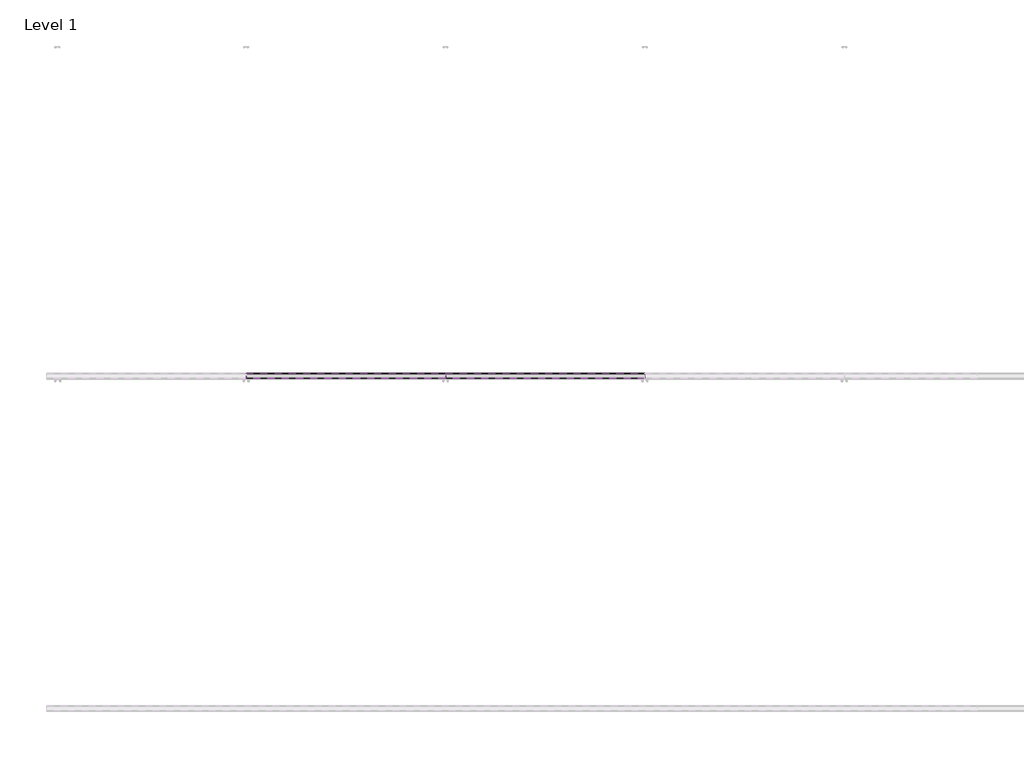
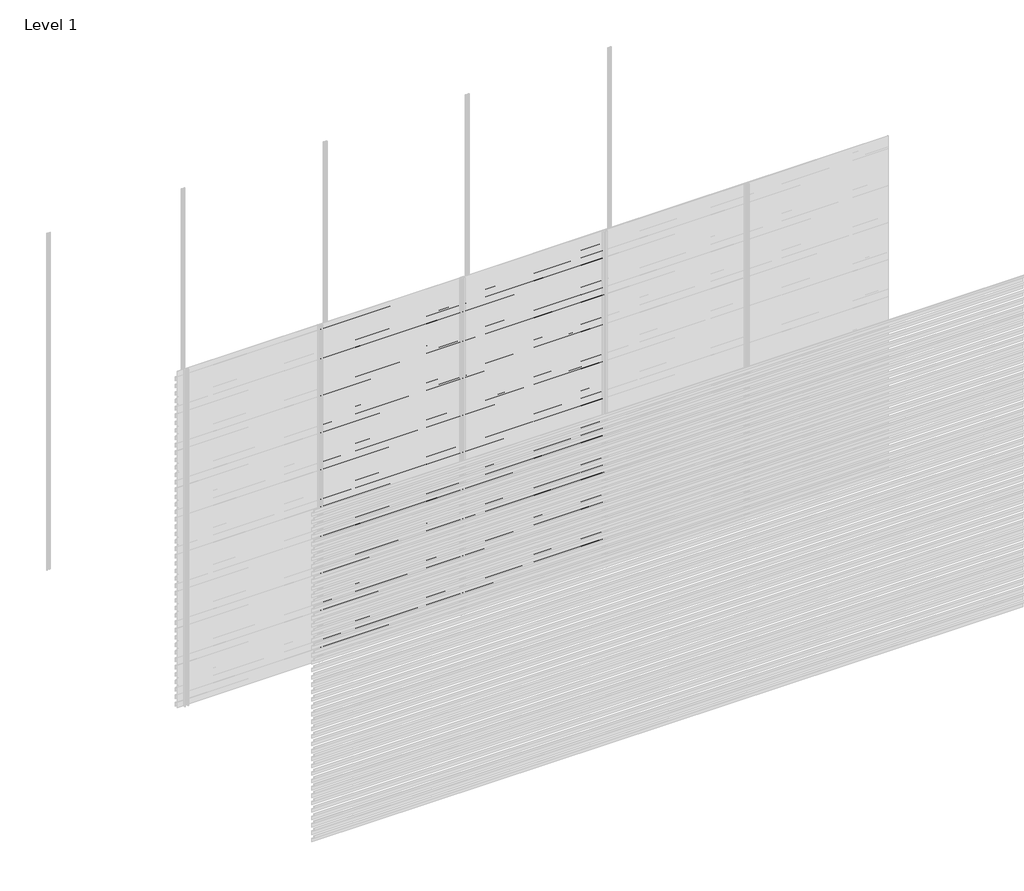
# One storey, part 29 of 33: 88 proxies.
"""IFC4 building model written with IfcOpenShell, lengths in millimetres."""

from ifc_helpers import new_model, si_unit, frame, origin, place, context, project, spatial, polyline, outline, extrude, element, save

model = new_model("IFC4")

# Units and contexts
model_context = context("Model", 3, world=origin())
ifc_project = project(units=[si_unit("LENGTHUNIT", "METRE", prefix="MILLI")], contexts=[model_context])

# Site, building, storey
site = spatial("IfcSite", under=ifc_project)
building = spatial("IfcBuilding", under=site)
storey = spatial("IfcBuildingStorey", under=building, Name="Level 1", Elevation=0.0)

# Proxies
placement = place(None, origin())
element("IfcBuildingElementProxy", 1, Name="Wall Sweeps", at=placement, inside=storey, context=model_context, shape_type="SweptSolid", body=[
    extrude(outline(polyline([(-5967.0, 2930.0), (-5967.0, 2897.0), (-5968.25, 2897.7216933), (-5968.25, 2929.2872415), (-5998.0, 2950.0588647), (-5998.0, 2970.0), (-5996.75, 2970.0), (-5996.75, 2950.7716232), (-5967.0, 2930.0)])), frame((1200.0, 0.0, 0.0), z_axis=(1.0, 0.0, 0.0), x_axis=(0.0, 1.0, 0.0)), (0.0, 0.0, 1.0), 1200.0),
])
element("IfcBuildingElementProxy", 2, Name="Wall Sweeps", at=placement, inside=storey, context=model_context, shape_type="SweptSolid", body=[
    extrude(outline(polyline([(-5967.0, 2864.0), (-5967.0, 2831.0), (-5968.25, 2831.7216933), (-5968.25, 2863.2872415), (-5998.0, 2884.0588647), (-5998.0, 2904.0), (-5996.75, 2904.0), (-5996.75, 2884.7716232), (-5967.0, 2864.0)])), frame((1200.0, 0.0, 0.0), z_axis=(1.0, 0.0, 0.0), x_axis=(0.0, 1.0, 0.0)), (0.0, 0.0, 1.0), 1200.0),
])
element("IfcBuildingElementProxy", 3, Name="Wall Sweeps", at=placement, inside=storey, context=model_context, shape_type="SweptSolid", body=[
    extrude(outline(polyline([(-5967.0, 2798.0), (-5967.0, 2765.0), (-5968.25, 2765.7216933), (-5968.25, 2797.2872415), (-5998.0, 2818.0588647), (-5998.0, 2838.0), (-5996.75, 2838.0), (-5996.75, 2818.7716232), (-5967.0, 2798.0)])), frame((1200.0, 0.0, 0.0), z_axis=(1.0, 0.0, 0.0), x_axis=(0.0, 1.0, 0.0)), (0.0, 0.0, 1.0), 1200.0),
])
element("IfcBuildingElementProxy", 4, Name="Wall Sweeps", at=placement, inside=storey, context=model_context, shape_type="SweptSolid", body=[
    extrude(outline(polyline([(-5967.0, 2732.0), (-5967.0, 2699.0), (-5968.25, 2699.7216933), (-5968.25, 2731.2872415), (-5998.0, 2752.0588647), (-5998.0, 2772.0), (-5996.75, 2772.0), (-5996.75, 2752.7716232), (-5967.0, 2732.0)])), frame((1200.0, 0.0, 0.0), z_axis=(1.0, 0.0, 0.0), x_axis=(0.0, 1.0, 0.0)), (0.0, 0.0, 1.0), 1200.0),
])
element("IfcBuildingElementProxy", 5, Name="Wall Sweeps", at=placement, inside=storey, context=model_context, shape_type="SweptSolid", body=[
    extrude(outline(polyline([(-5967.0, 2666.0), (-5967.0, 2633.0), (-5968.25, 2633.7216933), (-5968.25, 2665.2872415), (-5998.0, 2686.0588647), (-5998.0, 2706.0), (-5996.75, 2706.0), (-5996.75, 2686.7716232), (-5967.0, 2666.0)])), frame((1200.0, 0.0, 0.0), z_axis=(1.0, 0.0, 0.0), x_axis=(0.0, 1.0, 0.0)), (0.0, 0.0, 1.0), 1200.0),
])
element("IfcBuildingElementProxy", 6, Name="Wall Sweeps", at=placement, inside=storey, context=model_context, shape_type="SweptSolid", body=[
    extrude(outline(polyline([(-5967.0, 2600.0), (-5967.0, 2567.0), (-5968.25, 2567.7216933), (-5968.25, 2599.2872415), (-5998.0, 2620.0588647), (-5998.0, 2640.0), (-5996.75, 2640.0), (-5996.75, 2620.7716232), (-5967.0, 2600.0)])), frame((1200.0, 0.0, 0.0), z_axis=(1.0, 0.0, 0.0), x_axis=(0.0, 1.0, 0.0)), (0.0, 0.0, 1.0), 1200.0),
])
element("IfcBuildingElementProxy", 7, Name="Wall Sweeps", at=placement, inside=storey, context=model_context, shape_type="SweptSolid", body=[
    extrude(outline(polyline([(-5967.0, 2534.0), (-5967.0, 2501.0), (-5968.25, 2501.7216933), (-5968.25, 2533.2872415), (-5998.0, 2554.0588647), (-5998.0, 2574.0), (-5996.75, 2574.0), (-5996.75, 2554.7716232), (-5967.0, 2534.0)])), frame((1200.0, 0.0, 0.0), z_axis=(1.0, 0.0, 0.0), x_axis=(0.0, 1.0, 0.0)), (0.0, 0.0, 1.0), 1200.0),
])
element("IfcBuildingElementProxy", 8, Name="Wall Sweeps", at=placement, inside=storey, context=model_context, shape_type="SweptSolid", body=[
    extrude(outline(polyline([(-5967.0, 2468.0), (-5967.0, 2435.0), (-5968.25, 2435.7216933), (-5968.25, 2467.2872415), (-5998.0, 2488.0588647), (-5998.0, 2508.0), (-5996.75, 2508.0), (-5996.75, 2488.7716232), (-5967.0, 2468.0)])), frame((1200.0, 0.0, 0.0), z_axis=(1.0, 0.0, 0.0), x_axis=(0.0, 1.0, 0.0)), (0.0, 0.0, 1.0), 1200.0),
])
element("IfcBuildingElementProxy", 9, Name="Wall Sweeps", at=placement, inside=storey, context=model_context, shape_type="SweptSolid", body=[
    extrude(outline(polyline([(-5967.0, 2402.0), (-5967.0, 2369.0), (-5968.25, 2369.7216933), (-5968.25, 2401.2872415), (-5998.0, 2422.0588647), (-5998.0, 2442.0), (-5996.75, 2442.0), (-5996.75, 2422.7716232), (-5967.0, 2402.0)])), frame((1200.0, 0.0, 0.0), z_axis=(1.0, 0.0, 0.0), x_axis=(0.0, 1.0, 0.0)), (0.0, 0.0, 1.0), 1200.0),
])
element("IfcBuildingElementProxy", 10, Name="Wall Sweeps", at=placement, inside=storey, context=model_context, shape_type="SweptSolid", body=[
    extrude(outline(polyline([(-5967.0, 2336.0), (-5967.0, 2303.0), (-5968.25, 2303.7216933), (-5968.25, 2335.2872415), (-5998.0, 2356.0588647), (-5998.0, 2376.0), (-5996.75, 2376.0), (-5996.75, 2356.7716232), (-5967.0, 2336.0)])), frame((1200.0, 0.0, 0.0), z_axis=(1.0, 0.0, 0.0), x_axis=(0.0, 1.0, 0.0)), (0.0, 0.0, 1.0), 1200.0),
])
element("IfcBuildingElementProxy", 11, Name="Wall Sweeps", at=placement, inside=storey, context=model_context, shape_type="SweptSolid", body=[
    extrude(outline(polyline([(-5967.0, 2270.0), (-5967.0, 2237.0), (-5968.25, 2237.7216933), (-5968.25, 2269.2872415), (-5998.0, 2290.0588647), (-5998.0, 2310.0), (-5996.75, 2310.0), (-5996.75, 2290.7716232), (-5967.0, 2270.0)])), frame((1200.0, 0.0, 0.0), z_axis=(1.0, 0.0, 0.0), x_axis=(0.0, 1.0, 0.0)), (0.0, 0.0, 1.0), 1200.0),
])
element("IfcBuildingElementProxy", 12, Name="Wall Sweeps", at=placement, inside=storey, context=model_context, shape_type="SweptSolid", body=[
    extrude(outline(polyline([(-5967.0, 2204.0), (-5967.0, 2171.0), (-5968.25, 2171.7216933), (-5968.25, 2203.2872415), (-5998.0, 2224.0588647), (-5998.0, 2244.0), (-5996.75, 2244.0), (-5996.75, 2224.7716232), (-5967.0, 2204.0)])), frame((1200.0, 0.0, 0.0), z_axis=(1.0, 0.0, 0.0), x_axis=(0.0, 1.0, 0.0)), (0.0, 0.0, 1.0), 1200.0),
])
element("IfcBuildingElementProxy", 13, Name="Wall Sweeps", at=placement, inside=storey, context=model_context, shape_type="SweptSolid", body=[
    extrude(outline(polyline([(-5967.0, 2138.0), (-5967.0, 2105.0), (-5968.25, 2105.7216933), (-5968.25, 2137.2872415), (-5998.0, 2158.0588647), (-5998.0, 2178.0), (-5996.75, 2178.0), (-5996.75, 2158.7716232), (-5967.0, 2138.0)])), frame((1200.0, 0.0, 0.0), z_axis=(1.0, 0.0, 0.0), x_axis=(0.0, 1.0, 0.0)), (0.0, 0.0, 1.0), 1200.0),
])
element("IfcBuildingElementProxy", 14, Name="Wall Sweeps", at=placement, inside=storey, context=model_context, shape_type="SweptSolid", body=[
    extrude(outline(polyline([(-5967.0, 2072.0), (-5967.0, 2039.0), (-5968.25, 2039.7216933), (-5968.25, 2071.2872415), (-5998.0, 2092.0588647), (-5998.0, 2112.0), (-5996.75, 2112.0), (-5996.75, 2092.7716232), (-5967.0, 2072.0)])), frame((1200.0, 0.0, 0.0), z_axis=(1.0, 0.0, 0.0), x_axis=(0.0, 1.0, 0.0)), (0.0, 0.0, 1.0), 1200.0),
])
element("IfcBuildingElementProxy", 15, Name="Wall Sweeps", at=placement, inside=storey, context=model_context, shape_type="SweptSolid", body=[
    extrude(outline(polyline([(-5967.0, 2006.0), (-5967.0, 1973.0), (-5968.25, 1973.7216933), (-5968.25, 2005.2872415), (-5998.0, 2026.0588647), (-5998.0, 2046.0), (-5996.75, 2046.0), (-5996.75, 2026.7716232), (-5967.0, 2006.0)])), frame((1200.0, 0.0, 0.0), z_axis=(1.0, 0.0, 0.0), x_axis=(0.0, 1.0, 0.0)), (0.0, 0.0, 1.0), 1200.0),
])
element("IfcBuildingElementProxy", 16, Name="Wall Sweeps", at=placement, inside=storey, context=model_context, shape_type="SweptSolid", body=[
    extrude(outline(polyline([(-5967.0, 1940.0), (-5967.0, 1907.0), (-5968.25, 1907.7216933), (-5968.25, 1939.2872415), (-5998.0, 1960.0588647), (-5998.0, 1980.0), (-5996.75, 1980.0), (-5996.75, 1960.7716232), (-5967.0, 1940.0)])), frame((1200.0, 0.0, 0.0), z_axis=(1.0, 0.0, 0.0), x_axis=(0.0, 1.0, 0.0)), (0.0, 0.0, 1.0), 1200.0),
])
element("IfcBuildingElementProxy", 17, Name="Wall Sweeps", at=placement, inside=storey, context=model_context, shape_type="SweptSolid", body=[
    extrude(outline(polyline([(-5967.0, 1874.0), (-5967.0, 1841.0), (-5968.25, 1841.7216933), (-5968.25, 1873.2872415), (-5998.0, 1894.0588647), (-5998.0, 1914.0), (-5996.75, 1914.0), (-5996.75, 1894.7716232), (-5967.0, 1874.0)])), frame((1200.0, 0.0, 0.0), z_axis=(1.0, 0.0, 0.0), x_axis=(0.0, 1.0, 0.0)), (0.0, 0.0, 1.0), 1200.0),
])
element("IfcBuildingElementProxy", 18, Name="Wall Sweeps", at=placement, inside=storey, context=model_context, shape_type="SweptSolid", body=[
    extrude(outline(polyline([(-5967.0, 1808.0), (-5967.0, 1775.0), (-5968.25, 1775.7216933), (-5968.25, 1807.2872415), (-5998.0, 1828.0588647), (-5998.0, 1848.0), (-5996.75, 1848.0), (-5996.75, 1828.7716232), (-5967.0, 1808.0)])), frame((1200.0, 0.0, 0.0), z_axis=(1.0, 0.0, 0.0), x_axis=(0.0, 1.0, 0.0)), (0.0, 0.0, 1.0), 1200.0),
])
element("IfcBuildingElementProxy", 19, Name="Wall Sweeps", at=placement, inside=storey, context=model_context, shape_type="SweptSolid", body=[
    extrude(outline(polyline([(-5967.0, 1742.0), (-5967.0, 1709.0), (-5968.25, 1709.7216933), (-5968.25, 1741.2872415), (-5998.0, 1762.0588647), (-5998.0, 1782.0), (-5996.75, 1782.0), (-5996.75, 1762.7716232), (-5967.0, 1742.0)])), frame((1200.0, 0.0, 0.0), z_axis=(1.0, 0.0, 0.0), x_axis=(0.0, 1.0, 0.0)), (0.0, 0.0, 1.0), 1200.0),
])
element("IfcBuildingElementProxy", 20, Name="Wall Sweeps", at=placement, inside=storey, context=model_context, shape_type="SweptSolid", body=[
    extrude(outline(polyline([(-5967.0, 1676.0), (-5967.0, 1643.0), (-5968.25, 1643.7216933), (-5968.25, 1675.2872415), (-5998.0, 1696.0588647), (-5998.0, 1716.0), (-5996.75, 1716.0), (-5996.75, 1696.7716232), (-5967.0, 1676.0)])), frame((1200.0, 0.0, 0.0), z_axis=(1.0, 0.0, 0.0), x_axis=(0.0, 1.0, 0.0)), (0.0, 0.0, 1.0), 1200.0),
])
element("IfcBuildingElementProxy", 21, Name="Wall Sweeps", at=placement, inside=storey, context=model_context, shape_type="SweptSolid", body=[
    extrude(outline(polyline([(-5967.0, 1610.0), (-5967.0, 1577.0), (-5968.25, 1577.7216933), (-5968.25, 1609.2872415), (-5998.0, 1630.0588647), (-5998.0, 1650.0), (-5996.75, 1650.0), (-5996.75, 1630.7716232), (-5967.0, 1610.0)])), frame((1200.0, 0.0, 0.0), z_axis=(1.0, 0.0, 0.0), x_axis=(0.0, 1.0, 0.0)), (0.0, 0.0, 1.0), 1200.0),
])
element("IfcBuildingElementProxy", 22, Name="Wall Sweeps", at=placement, inside=storey, context=model_context, shape_type="SweptSolid", body=[
    extrude(outline(polyline([(-5967.0, 1544.0), (-5967.0, 1511.0), (-5968.25, 1511.7216933), (-5968.25, 1543.2872415), (-5998.0, 1564.0588647), (-5998.0, 1584.0), (-5996.75, 1584.0), (-5996.75, 1564.7716232), (-5967.0, 1544.0)])), frame((1200.0, 0.0, 0.0), z_axis=(1.0, 0.0, 0.0), x_axis=(0.0, 1.0, 0.0)), (0.0, 0.0, 1.0), 1200.0),
])
element("IfcBuildingElementProxy", 23, Name="Wall Sweeps", at=placement, inside=storey, context=model_context, shape_type="SweptSolid", body=[
    extrude(outline(polyline([(-5967.0, 1478.0), (-5967.0, 1445.0), (-5968.25, 1445.7216933), (-5968.25, 1477.2872415), (-5998.0, 1498.0588647), (-5998.0, 1518.0), (-5996.75, 1518.0), (-5996.75, 1498.7716232), (-5967.0, 1478.0)])), frame((1200.0, 0.0, 0.0), z_axis=(1.0, 0.0, 0.0), x_axis=(0.0, 1.0, 0.0)), (0.0, 0.0, 1.0), 1200.0),
])
element("IfcBuildingElementProxy", 24, Name="Wall Sweeps", at=placement, inside=storey, context=model_context, shape_type="SweptSolid", body=[
    extrude(outline(polyline([(-5967.0, 1412.0), (-5967.0, 1379.0), (-5968.25, 1379.7216933), (-5968.25, 1411.2872415), (-5998.0, 1432.0588647), (-5998.0, 1452.0), (-5996.75, 1452.0), (-5996.75, 1432.7716232), (-5967.0, 1412.0)])), frame((1200.0, 0.0, 0.0), z_axis=(1.0, 0.0, 0.0), x_axis=(0.0, 1.0, 0.0)), (0.0, 0.0, 1.0), 1200.0),
])
element("IfcBuildingElementProxy", 25, Name="Wall Sweeps", at=placement, inside=storey, context=model_context, shape_type="SweptSolid", body=[
    extrude(outline(polyline([(-5967.0, 1346.0), (-5967.0, 1313.0), (-5968.25, 1313.7216933), (-5968.25, 1345.2872415), (-5998.0, 1366.0588647), (-5998.0, 1386.0), (-5996.75, 1386.0), (-5996.75, 1366.7716232), (-5967.0, 1346.0)])), frame((1200.0, 0.0, 0.0), z_axis=(1.0, 0.0, 0.0), x_axis=(0.0, 1.0, 0.0)), (0.0, 0.0, 1.0), 1200.0),
])
element("IfcBuildingElementProxy", 26, Name="Wall Sweeps", at=placement, inside=storey, context=model_context, shape_type="SweptSolid", body=[
    extrude(outline(polyline([(-5967.0, 1280.0), (-5967.0, 1247.0), (-5968.25, 1247.7216933), (-5968.25, 1279.2872415), (-5998.0, 1300.0588647), (-5998.0, 1320.0), (-5996.75, 1320.0), (-5996.75, 1300.7716232), (-5967.0, 1280.0)])), frame((1200.0, 0.0, 0.0), z_axis=(1.0, 0.0, 0.0), x_axis=(0.0, 1.0, 0.0)), (0.0, 0.0, 1.0), 1200.0),
])
element("IfcBuildingElementProxy", 27, Name="Wall Sweeps", at=placement, inside=storey, context=model_context, shape_type="SweptSolid", body=[
    extrude(outline(polyline([(-5967.0, 1214.0), (-5967.0, 1181.0), (-5968.25, 1181.7216933), (-5968.25, 1213.2872415), (-5998.0, 1234.0588647), (-5998.0, 1254.0), (-5996.75, 1254.0), (-5996.75, 1234.7716232), (-5967.0, 1214.0)])), frame((1200.0, 0.0, 0.0), z_axis=(1.0, 0.0, 0.0), x_axis=(0.0, 1.0, 0.0)), (0.0, 0.0, 1.0), 1200.0),
])
element("IfcBuildingElementProxy", 28, Name="Wall Sweeps", at=placement, inside=storey, context=model_context, shape_type="SweptSolid", body=[
    extrude(outline(polyline([(-5967.0, 1148.0), (-5967.0, 1115.0), (-5968.25, 1115.7216933), (-5968.25, 1147.2872415), (-5998.0, 1168.0588647), (-5998.0, 1188.0), (-5996.75, 1188.0), (-5996.75, 1168.7716232), (-5967.0, 1148.0)])), frame((1200.0, 0.0, 0.0), z_axis=(1.0, 0.0, 0.0), x_axis=(0.0, 1.0, 0.0)), (0.0, 0.0, 1.0), 1200.0),
])
element("IfcBuildingElementProxy", 29, Name="Wall Sweeps", at=placement, inside=storey, context=model_context, shape_type="SweptSolid", body=[
    extrude(outline(polyline([(-5967.0, 1082.0), (-5967.0, 1049.0), (-5968.25, 1049.7216933), (-5968.25, 1081.2872415), (-5998.0, 1102.0588647), (-5998.0, 1122.0), (-5996.75, 1122.0), (-5996.75, 1102.7716232), (-5967.0, 1082.0)])), frame((1200.0, 0.0, 0.0), z_axis=(1.0, 0.0, 0.0), x_axis=(0.0, 1.0, 0.0)), (0.0, 0.0, 1.0), 1200.0),
])
element("IfcBuildingElementProxy", 30, Name="Wall Sweeps", at=placement, inside=storey, context=model_context, shape_type="SweptSolid", body=[
    extrude(outline(polyline([(-5967.0, 1016.0), (-5967.0, 983.0), (-5968.25, 983.7216933), (-5968.25, 1015.2872415), (-5998.0, 1036.0588647), (-5998.0, 1056.0), (-5996.75, 1056.0), (-5996.75, 1036.7716232), (-5967.0, 1016.0)])), frame((1200.0, 0.0, 0.0), z_axis=(1.0, 0.0, 0.0), x_axis=(0.0, 1.0, 0.0)), (0.0, 0.0, 1.0), 1200.0),
])
element("IfcBuildingElementProxy", 31, Name="Wall Sweeps", at=placement, inside=storey, context=model_context, shape_type="SweptSolid", body=[
    extrude(outline(polyline([(-5967.0, 950.0), (-5967.0, 917.0), (-5968.25, 917.7216933), (-5968.25, 949.2872415), (-5998.0, 970.0588647), (-5998.0, 990.0), (-5996.75, 990.0), (-5996.75, 970.7716232), (-5967.0, 950.0)])), frame((1200.0, 0.0, 0.0), z_axis=(1.0, 0.0, 0.0), x_axis=(0.0, 1.0, 0.0)), (0.0, 0.0, 1.0), 1200.0),
])
element("IfcBuildingElementProxy", 32, Name="Wall Sweeps", at=placement, inside=storey, context=model_context, shape_type="SweptSolid", body=[
    extrude(outline(polyline([(-5967.0, 884.0), (-5967.0, 851.0), (-5968.25, 851.7216933), (-5968.25, 883.2872415), (-5998.0, 904.0588647), (-5998.0, 924.0), (-5996.75, 924.0), (-5996.75, 904.7716232), (-5967.0, 884.0)])), frame((1200.0, 0.0, 0.0), z_axis=(1.0, 0.0, 0.0), x_axis=(0.0, 1.0, 0.0)), (0.0, 0.0, 1.0), 1200.0),
])
element("IfcBuildingElementProxy", 33, Name="Wall Sweeps", at=placement, inside=storey, context=model_context, shape_type="SweptSolid", body=[
    extrude(outline(polyline([(-5967.0, 818.0), (-5967.0, 785.0), (-5968.25, 785.7216933), (-5968.25, 817.2872415), (-5998.0, 838.0588647), (-5998.0, 858.0), (-5996.75, 858.0), (-5996.75, 838.7716232), (-5967.0, 818.0)])), frame((1200.0, 0.0, 0.0), z_axis=(1.0, 0.0, 0.0), x_axis=(0.0, 1.0, 0.0)), (0.0, 0.0, 1.0), 1200.0),
])
element("IfcBuildingElementProxy", 34, Name="Wall Sweeps", at=placement, inside=storey, context=model_context, shape_type="SweptSolid", body=[
    extrude(outline(polyline([(-5967.0, 752.0), (-5967.0, 719.0), (-5968.25, 719.7216933), (-5968.25, 751.2872415), (-5998.0, 772.0588647), (-5998.0, 792.0), (-5996.75, 792.0), (-5996.75, 772.7716232), (-5967.0, 752.0)])), frame((1200.0, 0.0, 0.0), z_axis=(1.0, 0.0, 0.0), x_axis=(0.0, 1.0, 0.0)), (0.0, 0.0, 1.0), 1200.0),
])
element("IfcBuildingElementProxy", 35, Name="Wall Sweeps", at=placement, inside=storey, context=model_context, shape_type="SweptSolid", body=[
    extrude(outline(polyline([(-5967.0, 686.0), (-5967.0, 653.0), (-5968.25, 653.7216933), (-5968.25, 685.2872415), (-5998.0, 706.0588647), (-5998.0, 726.0), (-5996.75, 726.0), (-5996.75, 706.7716232), (-5967.0, 686.0)])), frame((1200.0, 0.0, 0.0), z_axis=(1.0, 0.0, 0.0), x_axis=(0.0, 1.0, 0.0)), (0.0, 0.0, 1.0), 1200.0),
])
element("IfcBuildingElementProxy", 36, Name="Wall Sweeps", at=placement, inside=storey, context=model_context, shape_type="SweptSolid", body=[
    extrude(outline(polyline([(-5967.0, 620.0), (-5967.0, 587.0), (-5968.25, 587.7216933), (-5968.25, 619.2872415), (-5998.0, 640.0588647), (-5998.0, 660.0), (-5996.75, 660.0), (-5996.75, 640.7716232), (-5967.0, 620.0)])), frame((1200.0, 0.0, 0.0), z_axis=(1.0, 0.0, 0.0), x_axis=(0.0, 1.0, 0.0)), (0.0, 0.0, 1.0), 1200.0),
])
element("IfcBuildingElementProxy", 37, Name="Wall Sweeps", at=placement, inside=storey, context=model_context, shape_type="SweptSolid", body=[
    extrude(outline(polyline([(-5967.0, 554.0), (-5967.0, 521.0), (-5968.25, 521.7216933), (-5968.25, 553.2872415), (-5998.0, 574.0588647), (-5998.0, 594.0), (-5996.75, 594.0), (-5996.75, 574.7716232), (-5967.0, 554.0)])), frame((1200.0, 0.0, 0.0), z_axis=(1.0, 0.0, 0.0), x_axis=(0.0, 1.0, 0.0)), (0.0, 0.0, 1.0), 1200.0),
])
element("IfcBuildingElementProxy", 38, Name="Wall Sweeps", at=placement, inside=storey, context=model_context, shape_type="SweptSolid", body=[
    extrude(outline(polyline([(-5967.0, 488.0), (-5967.0, 455.0), (-5968.25, 455.7216933), (-5968.25, 487.2872415), (-5998.0, 508.0588647), (-5998.0, 528.0), (-5996.75, 528.0), (-5996.75, 508.7716232), (-5967.0, 488.0)])), frame((1200.0, 0.0, 0.0), z_axis=(1.0, 0.0, 0.0), x_axis=(0.0, 1.0, 0.0)), (0.0, 0.0, 1.0), 1200.0),
])
element("IfcBuildingElementProxy", 39, Name="Wall Sweeps", at=placement, inside=storey, context=model_context, shape_type="SweptSolid", body=[
    extrude(outline(polyline([(-5967.0, 422.0), (-5967.0, 389.0), (-5968.25, 389.7216933), (-5968.25, 421.2872415), (-5998.0, 442.0588647), (-5998.0, 462.0), (-5996.75, 462.0), (-5996.75, 442.7716232), (-5967.0, 422.0)])), frame((1200.0, 0.0, 0.0), z_axis=(1.0, 0.0, 0.0), x_axis=(0.0, 1.0, 0.0)), (0.0, 0.0, 1.0), 1200.0),
])
element("IfcBuildingElementProxy", 40, Name="Wall Sweeps", at=placement, inside=storey, context=model_context, shape_type="SweptSolid", body=[
    extrude(outline(polyline([(-5967.0, 356.0), (-5967.0, 323.0), (-5968.25, 323.7216933), (-5968.25, 355.2872415), (-5998.0, 376.0588647), (-5998.0, 396.0), (-5996.75, 396.0), (-5996.75, 376.7716232), (-5967.0, 356.0)])), frame((1200.0, 0.0, 0.0), z_axis=(1.0, 0.0, 0.0), x_axis=(0.0, 1.0, 0.0)), (0.0, 0.0, 1.0), 1200.0),
])
element("IfcBuildingElementProxy", 41, Name="Wall Sweeps", at=placement, inside=storey, context=model_context, shape_type="SweptSolid", body=[
    extrude(outline(polyline([(-5967.0, 290.0), (-5967.0, 257.0), (-5968.25, 257.7216933), (-5968.25, 289.2872415), (-5998.0, 310.0588647), (-5998.0, 330.0), (-5996.75, 330.0), (-5996.75, 310.7716232), (-5967.0, 290.0)])), frame((1200.0, 0.0, 0.0), z_axis=(1.0, 0.0, 0.0), x_axis=(0.0, 1.0, 0.0)), (0.0, 0.0, 1.0), 1200.0),
])
element("IfcBuildingElementProxy", 42, Name="Wall Sweeps", at=placement, inside=storey, context=model_context, shape_type="SweptSolid", body=[
    extrude(outline(polyline([(-5967.0, 224.0), (-5967.0, 191.0), (-5968.25, 191.7216933), (-5968.25, 223.2872415), (-5998.0, 244.0588647), (-5998.0, 264.0), (-5996.75, 264.0), (-5996.75, 244.7716232), (-5967.0, 224.0)])), frame((1200.0, 0.0, 0.0), z_axis=(1.0, 0.0, 0.0), x_axis=(0.0, 1.0, 0.0)), (0.0, 0.0, 1.0), 1200.0),
])
element("IfcBuildingElementProxy", 43, Name="Wall Sweeps", at=placement, inside=storey, context=model_context, shape_type="SweptSolid", body=[
    extrude(outline(polyline([(-5967.0, 158.0), (-5967.0, 125.0), (-5968.25, 125.7216933), (-5968.25, 157.2872415), (-5998.0, 178.0588647), (-5998.0, 198.0), (-5996.75, 198.0), (-5996.75, 178.7716232), (-5967.0, 158.0)])), frame((1200.0, 0.0, 0.0), z_axis=(1.0, 0.0, 0.0), x_axis=(0.0, 1.0, 0.0)), (0.0, 0.0, 1.0), 1200.0),
])
element("IfcBuildingElementProxy", 44, Name="Wall Sweeps", at=placement, inside=storey, context=model_context, shape_type="SweptSolid", body=[
    extrude(outline(polyline([(-5967.0, 92.0), (-5967.0, 59.0), (-5968.25, 59.7216933), (-5968.25, 91.2872415), (-5998.0, 112.0588647), (-5998.0, 132.0), (-5996.75, 132.0), (-5996.75, 112.7716232), (-5967.0, 92.0)])), frame((1200.0, 0.0, 0.0), z_axis=(1.0, 0.0, 0.0), x_axis=(0.0, 1.0, 0.0)), (0.0, 0.0, 1.0), 1200.0),
])
element("IfcBuildingElementProxy", 45, Name="Wall Sweeps", at=placement, inside=storey, context=model_context, shape_type="SweptSolid", body=[
    extrude(outline(polyline([(-5967.0, 26.0), (-5967.0, -7.0), (-5968.25, -6.2783067), (-5968.25, 25.2872415), (-5998.0, 46.0588647), (-5998.0, 66.0), (-5996.75, 66.0), (-5996.75, 46.7716232), (-5967.0, 26.0)])), frame((1200.0, 0.0, 0.0), z_axis=(1.0, 0.0, 0.0), x_axis=(0.0, 1.0, 0.0)), (0.0, 0.0, 1.0), 1200.0),
])
element("IfcBuildingElementProxy", 46, Name="Wall Sweeps", at=placement, inside=storey, context=model_context, shape_type="SweptSolid", body=[
    extrude(outline(polyline([(-5967.0, 2930.0), (-5967.0, 2897.0), (-5968.25, 2897.7216933), (-5968.25, 2929.2872415), (-5998.0, 2950.0588647), (-5998.0, 2970.0), (-5996.75, 2970.0), (-5996.75, 2950.7716232), (-5967.0, 2930.0)])), frame((2400.0, 0.0, 0.0), z_axis=(1.0, 0.0, 0.0), x_axis=(0.0, 1.0, 0.0)), (0.0, 0.0, 1.0), 1200.0),
])
element("IfcBuildingElementProxy", 47, Name="Wall Sweeps", at=placement, inside=storey, context=model_context, shape_type="SweptSolid", body=[
    extrude(outline(polyline([(-5967.0, 2864.0), (-5967.0, 2831.0), (-5968.25, 2831.7216933), (-5968.25, 2863.2872415), (-5998.0, 2884.0588647), (-5998.0, 2904.0), (-5996.75, 2904.0), (-5996.75, 2884.7716232), (-5967.0, 2864.0)])), frame((2400.0, 0.0, 0.0), z_axis=(1.0, 0.0, 0.0), x_axis=(0.0, 1.0, 0.0)), (0.0, 0.0, 1.0), 1200.0),
])
element("IfcBuildingElementProxy", 48, Name="Wall Sweeps", at=placement, inside=storey, context=model_context, shape_type="SweptSolid", body=[
    extrude(outline(polyline([(-5967.0, 2798.0), (-5967.0, 2765.0), (-5968.25, 2765.7216933), (-5968.25, 2797.2872415), (-5998.0, 2818.0588647), (-5998.0, 2838.0), (-5996.75, 2838.0), (-5996.75, 2818.7716232), (-5967.0, 2798.0)])), frame((2400.0, 0.0, 0.0), z_axis=(1.0, 0.0, 0.0), x_axis=(0.0, 1.0, 0.0)), (0.0, 0.0, 1.0), 1200.0),
])
element("IfcBuildingElementProxy", 49, Name="Wall Sweeps", at=placement, inside=storey, context=model_context, shape_type="SweptSolid", body=[
    extrude(outline(polyline([(-5967.0, 2732.0), (-5967.0, 2699.0), (-5968.25, 2699.7216933), (-5968.25, 2731.2872415), (-5998.0, 2752.0588647), (-5998.0, 2772.0), (-5996.75, 2772.0), (-5996.75, 2752.7716232), (-5967.0, 2732.0)])), frame((2400.0, 0.0, 0.0), z_axis=(1.0, 0.0, 0.0), x_axis=(0.0, 1.0, 0.0)), (0.0, 0.0, 1.0), 1200.0),
])
element("IfcBuildingElementProxy", 50, Name="Wall Sweeps", at=placement, inside=storey, context=model_context, shape_type="SweptSolid", body=[
    extrude(outline(polyline([(-5967.0, 2666.0), (-5967.0, 2633.0), (-5968.25, 2633.7216933), (-5968.25, 2665.2872415), (-5998.0, 2686.0588647), (-5998.0, 2706.0), (-5996.75, 2706.0), (-5996.75, 2686.7716232), (-5967.0, 2666.0)])), frame((2400.0, 0.0, 0.0), z_axis=(1.0, 0.0, 0.0), x_axis=(0.0, 1.0, 0.0)), (0.0, 0.0, 1.0), 1200.0),
])
element("IfcBuildingElementProxy", 51, Name="Wall Sweeps", at=placement, inside=storey, context=model_context, shape_type="SweptSolid", body=[
    extrude(outline(polyline([(-5967.0, 2600.0), (-5967.0, 2567.0), (-5968.25, 2567.7216933), (-5968.25, 2599.2872415), (-5998.0, 2620.0588647), (-5998.0, 2640.0), (-5996.75, 2640.0), (-5996.75, 2620.7716232), (-5967.0, 2600.0)])), frame((2400.0, 0.0, 0.0), z_axis=(1.0, 0.0, 0.0), x_axis=(0.0, 1.0, 0.0)), (0.0, 0.0, 1.0), 1200.0),
])
element("IfcBuildingElementProxy", 52, Name="Wall Sweeps", at=placement, inside=storey, context=model_context, shape_type="SweptSolid", body=[
    extrude(outline(polyline([(-5967.0, 2534.0), (-5967.0, 2501.0), (-5968.25, 2501.7216933), (-5968.25, 2533.2872415), (-5998.0, 2554.0588647), (-5998.0, 2574.0), (-5996.75, 2574.0), (-5996.75, 2554.7716232), (-5967.0, 2534.0)])), frame((2400.0, 0.0, 0.0), z_axis=(1.0, 0.0, 0.0), x_axis=(0.0, 1.0, 0.0)), (0.0, 0.0, 1.0), 1200.0),
])
element("IfcBuildingElementProxy", 53, Name="Wall Sweeps", at=placement, inside=storey, context=model_context, shape_type="SweptSolid", body=[
    extrude(outline(polyline([(-5967.0, 2468.0), (-5967.0, 2435.0), (-5968.25, 2435.7216933), (-5968.25, 2467.2872415), (-5998.0, 2488.0588647), (-5998.0, 2508.0), (-5996.75, 2508.0), (-5996.75, 2488.7716232), (-5967.0, 2468.0)])), frame((2400.0, 0.0, 0.0), z_axis=(1.0, 0.0, 0.0), x_axis=(0.0, 1.0, 0.0)), (0.0, 0.0, 1.0), 1200.0),
])
element("IfcBuildingElementProxy", 54, Name="Wall Sweeps", at=placement, inside=storey, context=model_context, shape_type="SweptSolid", body=[
    extrude(outline(polyline([(-5967.0, 2402.0), (-5967.0, 2369.0), (-5968.25, 2369.7216933), (-5968.25, 2401.2872415), (-5998.0, 2422.0588647), (-5998.0, 2442.0), (-5996.75, 2442.0), (-5996.75, 2422.7716232), (-5967.0, 2402.0)])), frame((2400.0, 0.0, 0.0), z_axis=(1.0, 0.0, 0.0), x_axis=(0.0, 1.0, 0.0)), (0.0, 0.0, 1.0), 1200.0),
])
element("IfcBuildingElementProxy", 55, Name="Wall Sweeps", at=placement, inside=storey, context=model_context, shape_type="SweptSolid", body=[
    extrude(outline(polyline([(-5967.0, 2336.0), (-5967.0, 2303.0), (-5968.25, 2303.7216933), (-5968.25, 2335.2872415), (-5998.0, 2356.0588647), (-5998.0, 2376.0), (-5996.75, 2376.0), (-5996.75, 2356.7716232), (-5967.0, 2336.0)])), frame((2400.0, 0.0, 0.0), z_axis=(1.0, 0.0, 0.0), x_axis=(0.0, 1.0, 0.0)), (0.0, 0.0, 1.0), 1200.0),
])
element("IfcBuildingElementProxy", 56, Name="Wall Sweeps", at=placement, inside=storey, context=model_context, shape_type="SweptSolid", body=[
    extrude(outline(polyline([(-5967.0, 2270.0), (-5967.0, 2237.0), (-5968.25, 2237.7216933), (-5968.25, 2269.2872415), (-5998.0, 2290.0588647), (-5998.0, 2310.0), (-5996.75, 2310.0), (-5996.75, 2290.7716232), (-5967.0, 2270.0)])), frame((2400.0, 0.0, 0.0), z_axis=(1.0, 0.0, 0.0), x_axis=(0.0, 1.0, 0.0)), (0.0, 0.0, 1.0), 1200.0),
])
element("IfcBuildingElementProxy", 57, Name="Wall Sweeps", at=placement, inside=storey, context=model_context, shape_type="SweptSolid", body=[
    extrude(outline(polyline([(-5967.0, 2204.0), (-5967.0, 2171.0), (-5968.25, 2171.7216933), (-5968.25, 2203.2872415), (-5998.0, 2224.0588647), (-5998.0, 2244.0), (-5996.75, 2244.0), (-5996.75, 2224.7716232), (-5967.0, 2204.0)])), frame((2400.0, 0.0, 0.0), z_axis=(1.0, 0.0, 0.0), x_axis=(0.0, 1.0, 0.0)), (0.0, 0.0, 1.0), 1200.0),
])
element("IfcBuildingElementProxy", 58, Name="Wall Sweeps", at=placement, inside=storey, context=model_context, shape_type="SweptSolid", body=[
    extrude(outline(polyline([(-5967.0, 2138.0), (-5967.0, 2105.0), (-5968.25, 2105.7216933), (-5968.25, 2137.2872415), (-5998.0, 2158.0588647), (-5998.0, 2178.0), (-5996.75, 2178.0), (-5996.75, 2158.7716232), (-5967.0, 2138.0)])), frame((2400.0, 0.0, 0.0), z_axis=(1.0, 0.0, 0.0), x_axis=(0.0, 1.0, 0.0)), (0.0, 0.0, 1.0), 1200.0),
])
element("IfcBuildingElementProxy", 59, Name="Wall Sweeps", at=placement, inside=storey, context=model_context, shape_type="SweptSolid", body=[
    extrude(outline(polyline([(-5967.0, 2072.0), (-5967.0, 2039.0), (-5968.25, 2039.7216933), (-5968.25, 2071.2872415), (-5998.0, 2092.0588647), (-5998.0, 2112.0), (-5996.75, 2112.0), (-5996.75, 2092.7716232), (-5967.0, 2072.0)])), frame((2400.0, 0.0, 0.0), z_axis=(1.0, 0.0, 0.0), x_axis=(0.0, 1.0, 0.0)), (0.0, 0.0, 1.0), 1200.0),
])
element("IfcBuildingElementProxy", 60, Name="Wall Sweeps", at=placement, inside=storey, context=model_context, shape_type="SweptSolid", body=[
    extrude(outline(polyline([(-5967.0, 2006.0), (-5967.0, 1973.0), (-5968.25, 1973.7216933), (-5968.25, 2005.2872415), (-5998.0, 2026.0588647), (-5998.0, 2046.0), (-5996.75, 2046.0), (-5996.75, 2026.7716232), (-5967.0, 2006.0)])), frame((2400.0, 0.0, 0.0), z_axis=(1.0, 0.0, 0.0), x_axis=(0.0, 1.0, 0.0)), (0.0, 0.0, 1.0), 1200.0),
])
element("IfcBuildingElementProxy", 61, Name="Wall Sweeps", at=placement, inside=storey, context=model_context, shape_type="SweptSolid", body=[
    extrude(outline(polyline([(-5967.0, 1940.0), (-5967.0, 1907.0), (-5968.25, 1907.7216933), (-5968.25, 1939.2872415), (-5998.0, 1960.0588647), (-5998.0, 1980.0), (-5996.75, 1980.0), (-5996.75, 1960.7716232), (-5967.0, 1940.0)])), frame((2400.0, 0.0, 0.0), z_axis=(1.0, 0.0, 0.0), x_axis=(0.0, 1.0, 0.0)), (0.0, 0.0, 1.0), 1200.0),
])
element("IfcBuildingElementProxy", 62, Name="Wall Sweeps", at=placement, inside=storey, context=model_context, shape_type="SweptSolid", body=[
    extrude(outline(polyline([(-5967.0, 1874.0), (-5967.0, 1841.0), (-5968.25, 1841.7216933), (-5968.25, 1873.2872415), (-5998.0, 1894.0588647), (-5998.0, 1914.0), (-5996.75, 1914.0), (-5996.75, 1894.7716232), (-5967.0, 1874.0)])), frame((2400.0, 0.0, 0.0), z_axis=(1.0, 0.0, 0.0), x_axis=(0.0, 1.0, 0.0)), (0.0, 0.0, 1.0), 1200.0),
])
element("IfcBuildingElementProxy", 63, Name="Wall Sweeps", at=placement, inside=storey, context=model_context, shape_type="SweptSolid", body=[
    extrude(outline(polyline([(-5967.0, 1808.0), (-5967.0, 1775.0), (-5968.25, 1775.7216933), (-5968.25, 1807.2872415), (-5998.0, 1828.0588647), (-5998.0, 1848.0), (-5996.75, 1848.0), (-5996.75, 1828.7716232), (-5967.0, 1808.0)])), frame((2400.0, 0.0, 0.0), z_axis=(1.0, 0.0, 0.0), x_axis=(0.0, 1.0, 0.0)), (0.0, 0.0, 1.0), 1200.0),
])
element("IfcBuildingElementProxy", 64, Name="Wall Sweeps", at=placement, inside=storey, context=model_context, shape_type="SweptSolid", body=[
    extrude(outline(polyline([(-5967.0, 1742.0), (-5967.0, 1709.0), (-5968.25, 1709.7216933), (-5968.25, 1741.2872415), (-5998.0, 1762.0588647), (-5998.0, 1782.0), (-5996.75, 1782.0), (-5996.75, 1762.7716232), (-5967.0, 1742.0)])), frame((2400.0, 0.0, 0.0), z_axis=(1.0, 0.0, 0.0), x_axis=(0.0, 1.0, 0.0)), (0.0, 0.0, 1.0), 1200.0),
])
element("IfcBuildingElementProxy", 65, Name="Wall Sweeps", at=placement, inside=storey, context=model_context, shape_type="SweptSolid", body=[
    extrude(outline(polyline([(-5967.0, 1676.0), (-5967.0, 1643.0), (-5968.25, 1643.7216933), (-5968.25, 1675.2872415), (-5998.0, 1696.0588647), (-5998.0, 1716.0), (-5996.75, 1716.0), (-5996.75, 1696.7716232), (-5967.0, 1676.0)])), frame((2400.0, 0.0, 0.0), z_axis=(1.0, 0.0, 0.0), x_axis=(0.0, 1.0, 0.0)), (0.0, 0.0, 1.0), 1200.0),
])
element("IfcBuildingElementProxy", 66, Name="Wall Sweeps", at=placement, inside=storey, context=model_context, shape_type="SweptSolid", body=[
    extrude(outline(polyline([(-5967.0, 1610.0), (-5967.0, 1577.0), (-5968.25, 1577.7216933), (-5968.25, 1609.2872415), (-5998.0, 1630.0588647), (-5998.0, 1650.0), (-5996.75, 1650.0), (-5996.75, 1630.7716232), (-5967.0, 1610.0)])), frame((2400.0, 0.0, 0.0), z_axis=(1.0, 0.0, 0.0), x_axis=(0.0, 1.0, 0.0)), (0.0, 0.0, 1.0), 1200.0),
])
element("IfcBuildingElementProxy", 67, Name="Wall Sweeps", at=placement, inside=storey, context=model_context, shape_type="SweptSolid", body=[
    extrude(outline(polyline([(-5967.0, 1544.0), (-5967.0, 1511.0), (-5968.25, 1511.7216933), (-5968.25, 1543.2872415), (-5998.0, 1564.0588647), (-5998.0, 1584.0), (-5996.75, 1584.0), (-5996.75, 1564.7716232), (-5967.0, 1544.0)])), frame((2400.0, 0.0, 0.0), z_axis=(1.0, 0.0, 0.0), x_axis=(0.0, 1.0, 0.0)), (0.0, 0.0, 1.0), 1200.0),
])
element("IfcBuildingElementProxy", 68, Name="Wall Sweeps", at=placement, inside=storey, context=model_context, shape_type="SweptSolid", body=[
    extrude(outline(polyline([(-5967.0, 1478.0), (-5967.0, 1445.0), (-5968.25, 1445.7216933), (-5968.25, 1477.2872415), (-5998.0, 1498.0588647), (-5998.0, 1518.0), (-5996.75, 1518.0), (-5996.75, 1498.7716232), (-5967.0, 1478.0)])), frame((2400.0, 0.0, 0.0), z_axis=(1.0, 0.0, 0.0), x_axis=(0.0, 1.0, 0.0)), (0.0, 0.0, 1.0), 1200.0),
])
element("IfcBuildingElementProxy", 69, Name="Wall Sweeps", at=placement, inside=storey, context=model_context, shape_type="SweptSolid", body=[
    extrude(outline(polyline([(-5967.0, 1412.0), (-5967.0, 1379.0), (-5968.25, 1379.7216933), (-5968.25, 1411.2872415), (-5998.0, 1432.0588647), (-5998.0, 1452.0), (-5996.75, 1452.0), (-5996.75, 1432.7716232), (-5967.0, 1412.0)])), frame((2400.0, 0.0, 0.0), z_axis=(1.0, 0.0, 0.0), x_axis=(0.0, 1.0, 0.0)), (0.0, 0.0, 1.0), 1200.0),
])
element("IfcBuildingElementProxy", 70, Name="Wall Sweeps", at=placement, inside=storey, context=model_context, shape_type="SweptSolid", body=[
    extrude(outline(polyline([(-5967.0, 1346.0), (-5967.0, 1313.0), (-5968.25, 1313.7216933), (-5968.25, 1345.2872415), (-5998.0, 1366.0588647), (-5998.0, 1386.0), (-5996.75, 1386.0), (-5996.75, 1366.7716232), (-5967.0, 1346.0)])), frame((2400.0, 0.0, 0.0), z_axis=(1.0, 0.0, 0.0), x_axis=(0.0, 1.0, 0.0)), (0.0, 0.0, 1.0), 1200.0),
])
element("IfcBuildingElementProxy", 71, Name="Wall Sweeps", at=placement, inside=storey, context=model_context, shape_type="SweptSolid", body=[
    extrude(outline(polyline([(-5967.0, 1280.0), (-5967.0, 1247.0), (-5968.25, 1247.7216933), (-5968.25, 1279.2872415), (-5998.0, 1300.0588647), (-5998.0, 1320.0), (-5996.75, 1320.0), (-5996.75, 1300.7716232), (-5967.0, 1280.0)])), frame((2400.0, 0.0, 0.0), z_axis=(1.0, 0.0, 0.0), x_axis=(0.0, 1.0, 0.0)), (0.0, 0.0, 1.0), 1200.0),
])
element("IfcBuildingElementProxy", 72, Name="Wall Sweeps", at=placement, inside=storey, context=model_context, shape_type="SweptSolid", body=[
    extrude(outline(polyline([(-5967.0, 1214.0), (-5967.0, 1181.0), (-5968.25, 1181.7216933), (-5968.25, 1213.2872415), (-5998.0, 1234.0588647), (-5998.0, 1254.0), (-5996.75, 1254.0), (-5996.75, 1234.7716232), (-5967.0, 1214.0)])), frame((2400.0, 0.0, 0.0), z_axis=(1.0, 0.0, 0.0), x_axis=(0.0, 1.0, 0.0)), (0.0, 0.0, 1.0), 1200.0),
])
element("IfcBuildingElementProxy", 73, Name="Wall Sweeps", at=placement, inside=storey, context=model_context, shape_type="SweptSolid", body=[
    extrude(outline(polyline([(-5967.0, 1148.0), (-5967.0, 1115.0), (-5968.25, 1115.7216933), (-5968.25, 1147.2872415), (-5998.0, 1168.0588647), (-5998.0, 1188.0), (-5996.75, 1188.0), (-5996.75, 1168.7716232), (-5967.0, 1148.0)])), frame((2400.0, 0.0, 0.0), z_axis=(1.0, 0.0, 0.0), x_axis=(0.0, 1.0, 0.0)), (0.0, 0.0, 1.0), 1200.0),
])
element("IfcBuildingElementProxy", 74, Name="Wall Sweeps", at=placement, inside=storey, context=model_context, shape_type="SweptSolid", body=[
    extrude(outline(polyline([(-5967.0, 1082.0), (-5967.0, 1049.0), (-5968.25, 1049.7216933), (-5968.25, 1081.2872415), (-5998.0, 1102.0588647), (-5998.0, 1122.0), (-5996.75, 1122.0), (-5996.75, 1102.7716232), (-5967.0, 1082.0)])), frame((2400.0, 0.0, 0.0), z_axis=(1.0, 0.0, 0.0), x_axis=(0.0, 1.0, 0.0)), (0.0, 0.0, 1.0), 1200.0),
])
element("IfcBuildingElementProxy", 75, Name="Wall Sweeps", at=placement, inside=storey, context=model_context, shape_type="SweptSolid", body=[
    extrude(outline(polyline([(-5967.0, 1016.0), (-5967.0, 983.0), (-5968.25, 983.7216933), (-5968.25, 1015.2872415), (-5998.0, 1036.0588647), (-5998.0, 1056.0), (-5996.75, 1056.0), (-5996.75, 1036.7716232), (-5967.0, 1016.0)])), frame((2400.0, 0.0, 0.0), z_axis=(1.0, 0.0, 0.0), x_axis=(0.0, 1.0, 0.0)), (0.0, 0.0, 1.0), 1200.0),
])
element("IfcBuildingElementProxy", 76, Name="Wall Sweeps", at=placement, inside=storey, context=model_context, shape_type="SweptSolid", body=[
    extrude(outline(polyline([(-5967.0, 950.0), (-5967.0, 917.0), (-5968.25, 917.7216933), (-5968.25, 949.2872415), (-5998.0, 970.0588647), (-5998.0, 990.0), (-5996.75, 990.0), (-5996.75, 970.7716232), (-5967.0, 950.0)])), frame((2400.0, 0.0, 0.0), z_axis=(1.0, 0.0, 0.0), x_axis=(0.0, 1.0, 0.0)), (0.0, 0.0, 1.0), 1200.0),
])
element("IfcBuildingElementProxy", 77, Name="Wall Sweeps", at=placement, inside=storey, context=model_context, shape_type="SweptSolid", body=[
    extrude(outline(polyline([(-5967.0, 884.0), (-5967.0, 851.0), (-5968.25, 851.7216933), (-5968.25, 883.2872415), (-5998.0, 904.0588647), (-5998.0, 924.0), (-5996.75, 924.0), (-5996.75, 904.7716232), (-5967.0, 884.0)])), frame((2400.0, 0.0, 0.0), z_axis=(1.0, 0.0, 0.0), x_axis=(0.0, 1.0, 0.0)), (0.0, 0.0, 1.0), 1200.0),
])
element("IfcBuildingElementProxy", 78, Name="Wall Sweeps", at=placement, inside=storey, context=model_context, shape_type="SweptSolid", body=[
    extrude(outline(polyline([(-5967.0, 818.0), (-5967.0, 785.0), (-5968.25, 785.7216933), (-5968.25, 817.2872415), (-5998.0, 838.0588647), (-5998.0, 858.0), (-5996.75, 858.0), (-5996.75, 838.7716232), (-5967.0, 818.0)])), frame((2400.0, 0.0, 0.0), z_axis=(1.0, 0.0, 0.0), x_axis=(0.0, 1.0, 0.0)), (0.0, 0.0, 1.0), 1200.0),
])
element("IfcBuildingElementProxy", 79, Name="Wall Sweeps", at=placement, inside=storey, context=model_context, shape_type="SweptSolid", body=[
    extrude(outline(polyline([(-5967.0, 752.0), (-5967.0, 719.0), (-5968.25, 719.7216933), (-5968.25, 751.2872415), (-5998.0, 772.0588647), (-5998.0, 792.0), (-5996.75, 792.0), (-5996.75, 772.7716232), (-5967.0, 752.0)])), frame((2400.0, 0.0, 0.0), z_axis=(1.0, 0.0, 0.0), x_axis=(0.0, 1.0, 0.0)), (0.0, 0.0, 1.0), 1200.0),
])
element("IfcBuildingElementProxy", 80, Name="Wall Sweeps", at=placement, inside=storey, context=model_context, shape_type="SweptSolid", body=[
    extrude(outline(polyline([(-5967.0, 686.0), (-5967.0, 653.0), (-5968.25, 653.7216933), (-5968.25, 685.2872415), (-5998.0, 706.0588647), (-5998.0, 726.0), (-5996.75, 726.0), (-5996.75, 706.7716232), (-5967.0, 686.0)])), frame((2400.0, 0.0, 0.0), z_axis=(1.0, 0.0, 0.0), x_axis=(0.0, 1.0, 0.0)), (0.0, 0.0, 1.0), 1200.0),
])
element("IfcBuildingElementProxy", 81, Name="Wall Sweeps", at=placement, inside=storey, context=model_context, shape_type="SweptSolid", body=[
    extrude(outline(polyline([(-5967.0, 620.0), (-5967.0, 587.0), (-5968.25, 587.7216933), (-5968.25, 619.2872415), (-5998.0, 640.0588647), (-5998.0, 660.0), (-5996.75, 660.0), (-5996.75, 640.7716232), (-5967.0, 620.0)])), frame((2400.0, 0.0, 0.0), z_axis=(1.0, 0.0, 0.0), x_axis=(0.0, 1.0, 0.0)), (0.0, 0.0, 1.0), 1200.0),
])
element("IfcBuildingElementProxy", 82, Name="Wall Sweeps", at=placement, inside=storey, context=model_context, shape_type="SweptSolid", body=[
    extrude(outline(polyline([(-5967.0, 554.0), (-5967.0, 521.0), (-5968.25, 521.7216933), (-5968.25, 553.2872415), (-5998.0, 574.0588647), (-5998.0, 594.0), (-5996.75, 594.0), (-5996.75, 574.7716232), (-5967.0, 554.0)])), frame((2400.0, 0.0, 0.0), z_axis=(1.0, 0.0, 0.0), x_axis=(0.0, 1.0, 0.0)), (0.0, 0.0, 1.0), 1200.0),
])
element("IfcBuildingElementProxy", 83, Name="Wall Sweeps", at=placement, inside=storey, context=model_context, shape_type="SweptSolid", body=[
    extrude(outline(polyline([(-5967.0, 488.0), (-5967.0, 455.0), (-5968.25, 455.7216933), (-5968.25, 487.2872415), (-5998.0, 508.0588647), (-5998.0, 528.0), (-5996.75, 528.0), (-5996.75, 508.7716232), (-5967.0, 488.0)])), frame((2400.0, 0.0, 0.0), z_axis=(1.0, 0.0, 0.0), x_axis=(0.0, 1.0, 0.0)), (0.0, 0.0, 1.0), 1200.0),
])
element("IfcBuildingElementProxy", 84, Name="Wall Sweeps", at=placement, inside=storey, context=model_context, shape_type="SweptSolid", body=[
    extrude(outline(polyline([(-5967.0, 422.0), (-5967.0, 389.0), (-5968.25, 389.7216933), (-5968.25, 421.2872415), (-5998.0, 442.0588647), (-5998.0, 462.0), (-5996.75, 462.0), (-5996.75, 442.7716232), (-5967.0, 422.0)])), frame((2400.0, 0.0, 0.0), z_axis=(1.0, 0.0, 0.0), x_axis=(0.0, 1.0, 0.0)), (0.0, 0.0, 1.0), 1200.0),
])
element("IfcBuildingElementProxy", 85, Name="Wall Sweeps", at=placement, inside=storey, context=model_context, shape_type="SweptSolid", body=[
    extrude(outline(polyline([(-5967.0, 356.0), (-5967.0, 323.0), (-5968.25, 323.7216933), (-5968.25, 355.2872415), (-5998.0, 376.0588647), (-5998.0, 396.0), (-5996.75, 396.0), (-5996.75, 376.7716232), (-5967.0, 356.0)])), frame((2400.0, 0.0, 0.0), z_axis=(1.0, 0.0, 0.0), x_axis=(0.0, 1.0, 0.0)), (0.0, 0.0, 1.0), 1200.0),
])
element("IfcBuildingElementProxy", 86, Name="Wall Sweeps", at=placement, inside=storey, context=model_context, shape_type="SweptSolid", body=[
    extrude(outline(polyline([(-5967.0, 290.0), (-5967.0, 257.0), (-5968.25, 257.7216933), (-5968.25, 289.2872415), (-5998.0, 310.0588647), (-5998.0, 330.0), (-5996.75, 330.0), (-5996.75, 310.7716232), (-5967.0, 290.0)])), frame((2400.0, 0.0, 0.0), z_axis=(1.0, 0.0, 0.0), x_axis=(0.0, 1.0, 0.0)), (0.0, 0.0, 1.0), 1200.0),
])
element("IfcBuildingElementProxy", 87, Name="Wall Sweeps", at=placement, inside=storey, context=model_context, shape_type="SweptSolid", body=[
    extrude(outline(polyline([(-5967.0, 224.0), (-5967.0, 191.0), (-5968.25, 191.7216933), (-5968.25, 223.2872415), (-5998.0, 244.0588647), (-5998.0, 264.0), (-5996.75, 264.0), (-5996.75, 244.7716232), (-5967.0, 224.0)])), frame((2400.0, 0.0, 0.0), z_axis=(1.0, 0.0, 0.0), x_axis=(0.0, 1.0, 0.0)), (0.0, 0.0, 1.0), 1200.0),
])
element("IfcBuildingElementProxy", 88, Name="Wall Sweeps", at=placement, inside=storey, context=model_context, shape_type="SweptSolid", body=[
    extrude(outline(polyline([(-5967.0, 158.0), (-5967.0, 125.0), (-5968.25, 125.7216933), (-5968.25, 157.2872415), (-5998.0, 178.0588647), (-5998.0, 198.0), (-5996.75, 198.0), (-5996.75, 178.7716232), (-5967.0, 158.0)])), frame((2400.0, 0.0, 0.0), z_axis=(1.0, 0.0, 0.0), x_axis=(0.0, 1.0, 0.0)), (0.0, 0.0, 1.0), 1200.0),
])

save(model, "model.ifc")
